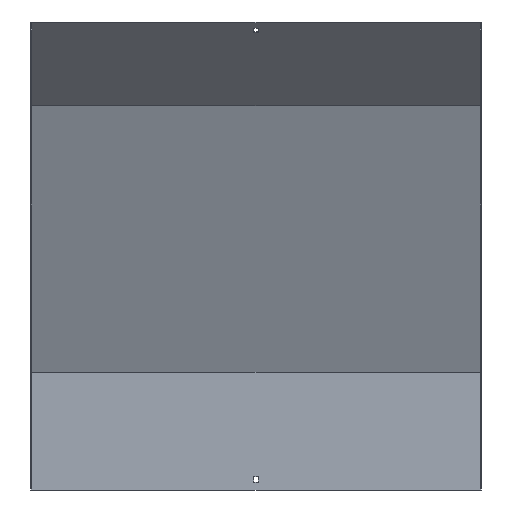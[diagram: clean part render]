
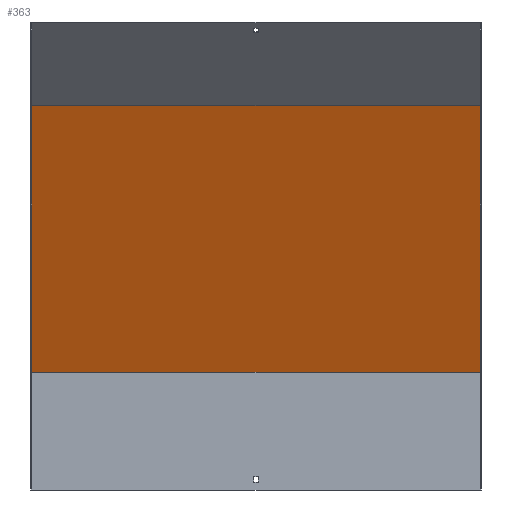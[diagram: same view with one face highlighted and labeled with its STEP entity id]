
A CAD part, front view. The second image highlights one B-rep face of the part: STEP entity #363.
In plain terms, the highlighted planar face has unit normal (0, -0.924, -0.383).
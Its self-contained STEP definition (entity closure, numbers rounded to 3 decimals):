
#49 = AXIS2_PLACEMENT_3D ( 'NONE', #133, #205, #419 ) ;
#71 = EDGE_CURVE ( 'NONE', #616, #80, #389, .T. ) ;
#75 = VERTEX_POINT ( 'NONE', #655 ) ;
#80 = VERTEX_POINT ( 'NONE', #174 ) ;
#94 = CARTESIAN_POINT ( 'NONE',  ( 351.5, -153.463, 598.834 ) ) ;
#99 = CARTESIAN_POINT ( 'NONE',  ( 350., 80.731, 33.44 ) ) ;
#128 = VECTOR ( 'NONE', #354, 1000. ) ;
#133 = CARTESIAN_POINT ( 'NONE',  ( 351.5, 17.092, 187.08 ) ) ;
#134 = ORIENTED_EDGE ( 'NONE', *, *, #405, .T. ) ;
#174 = CARTESIAN_POINT ( 'NONE',  ( -350., -153.463, 598.834 ) ) ;
#205 = DIRECTION ( 'NONE',  ( 0., -0.924, -0.383 ) ) ;
#212 = DIRECTION ( 'NONE',  ( -1., 0., 0. ) ) ;
#257 = ORIENTED_EDGE ( 'NONE', *, *, #699, .F. ) ;
#271 = VECTOR ( 'NONE', #359, 1000. ) ;
#310 = CARTESIAN_POINT ( 'NONE',  ( -350., 80.731, 33.44 ) ) ;
#348 = VERTEX_POINT ( 'NONE', #811 ) ;
#353 = EDGE_LOOP ( 'NONE', ( #808, #257, #460, #134 ) ) ;
#354 = DIRECTION ( 'NONE',  ( -1., 0., 0. ) ) ;
#359 = DIRECTION ( 'NONE',  ( 0., -0.383, 0.924 ) ) ;
#363 = ADVANCED_FACE ( 'NONE', ( #600 ), #735, .T. ) ;
#389 = LINE ( 'NONE', #310, #731 ) ;
#405 = EDGE_CURVE ( 'NONE', #75, #80, #760, .T. ) ;
#419 = DIRECTION ( 'NONE',  ( 0., 0.383, -0.924 ) ) ;
#430 = EDGE_CURVE ( 'NONE', #348, #75, #566, .T. ) ;
#448 = DIRECTION ( 'NONE',  ( 0., -0.383, 0.924 ) ) ;
#460 = ORIENTED_EDGE ( 'NONE', *, *, #430, .T. ) ;
#481 = CARTESIAN_POINT ( 'NONE',  ( 351.5, 18.5, 183.68 ) ) ;
#516 = VECTOR ( 'NONE', #212, 1000. ) ;
#566 = LINE ( 'NONE', #99, #271 ) ;
#567 = LINE ( 'NONE', #481, #128 ) ;
#600 = FACE_OUTER_BOUND ( 'NONE', #353, .T. ) ;
#606 = CARTESIAN_POINT ( 'NONE',  ( -350., 18.5, 183.68 ) ) ;
#616 = VERTEX_POINT ( 'NONE', #606 ) ;
#655 = CARTESIAN_POINT ( 'NONE',  ( 350., -153.463, 598.834 ) ) ;
#699 = EDGE_CURVE ( 'NONE', #348, #616, #567, .T. ) ;
#731 = VECTOR ( 'NONE', #448, 1000. ) ;
#735 = PLANE ( 'NONE',  #49 ) ;
#760 = LINE ( 'NONE', #94, #516 ) ;
#808 = ORIENTED_EDGE ( 'NONE', *, *, #71, .F. ) ;
#811 = CARTESIAN_POINT ( 'NONE',  ( 350., 18.5, 183.68 ) ) ;
